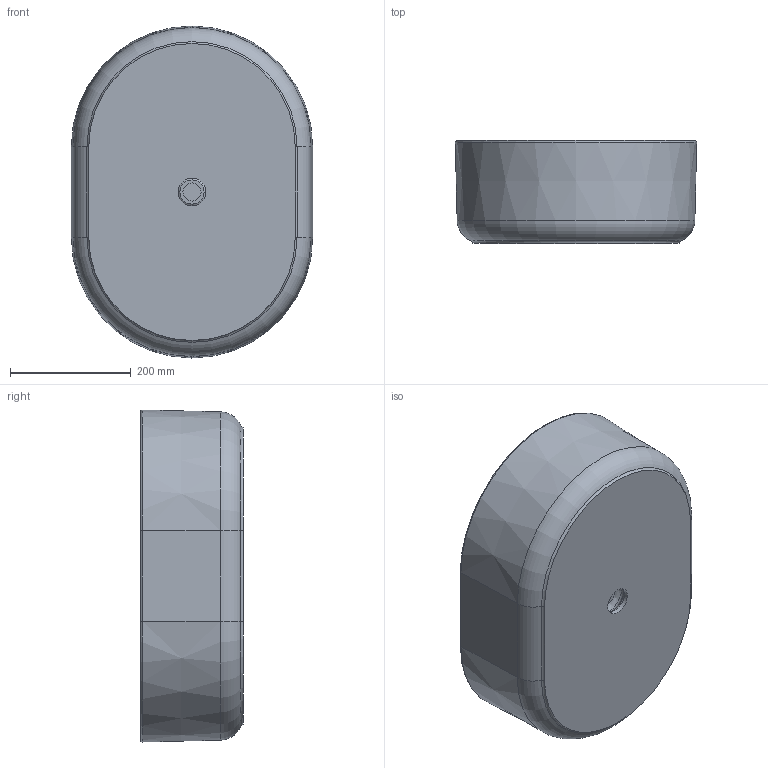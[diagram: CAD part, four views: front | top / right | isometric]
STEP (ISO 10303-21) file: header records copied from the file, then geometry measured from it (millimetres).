
FILE_DESCRIPTION (( 'STEP AP203' ), '1' );
FILE_NAME ('AULA05540000.STEP', '2025-04-15T14:55:44', ( '' ), ( '' ), 'SwSTEP 2.0', 'SolidWorks 2024', '' );
FILE_SCHEMA (( 'CONFIG_CONTROL_DESIGN' ));
Length unit declared in the file: millimetre
Products named in the file (3): PILETTA CLIKCLAK; AULA05540000
Assembly tree (2 placements, depth 2):
  AULA05540000
    AULA05540000
    PILETTA CLIKCLAK
Bounding box: 399.85 x 170 x 549.85 mm (x, y, z)
Volume: 11121540.2 mm3; surface area: 763117.8 mm2
Topology: 2 solids, 2 shells, 50 faces, 105 edges, 61 vertices
Faces by surface type: torus 13, cylinder 11, plane 10, bspline 10, cone 6
Full cylindrical faces by diameter (mm): 30 x1, 46 x1, 72 x1
Entity records: 3655 total; most frequent: CARTESIAN_POINT 2385, DIRECTION 214, ORIENTED_EDGE 182, AXIS2_PLACEMENT_3D 96, EDGE_CURVE 91, EDGE_LOOP 64, FACE_OUTER_BOUND 58, VERTEX_POINT 57
